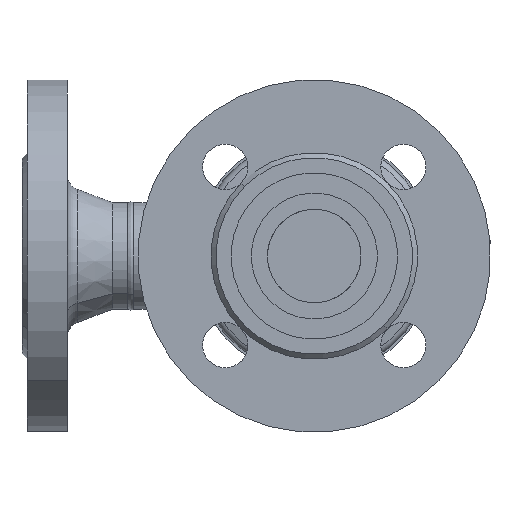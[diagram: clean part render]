
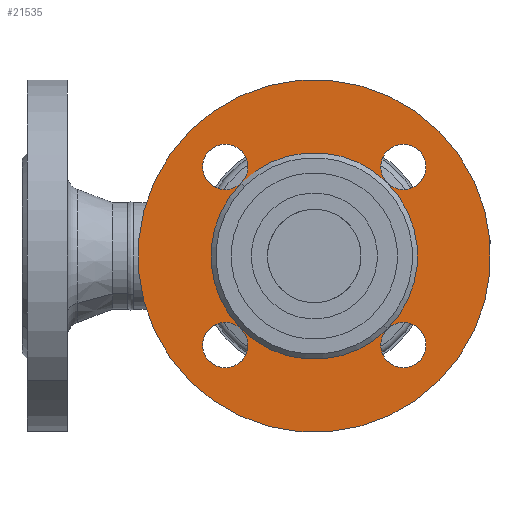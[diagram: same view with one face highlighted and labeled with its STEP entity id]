
A CAD part, front view. The second image highlights one B-rep face of the part: STEP entity #21535.
In plain terms, the highlighted planar face has unit normal (0, -1, 0).
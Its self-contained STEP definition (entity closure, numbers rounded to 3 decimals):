
#179 = CARTESIAN_POINT ( 'NONE',  ( 0., 2., -41. ) ) ;
#251 = EDGE_CURVE ( 'NONE', #22289, #477, #5646, .T. ) ;
#16678 = EDGE_CURVE ( 'NONE', #21967, #3812, #8738, .T. ) ;
#16777 = CIRCLE ( 'NONE', #16778, 70. ) ;
#16778 = AXIS2_PLACEMENT_3D ( 'NONE', #16798, #16799, #16800 ) ;
#16798 = CARTESIAN_POINT ( 'NONE',  ( 0., 2., 0. ) ) ;
#16799 = DIRECTION ( 'NONE',  ( 0., 1., 0. ) ) ;
#16800 = DIRECTION ( 'NONE',  ( -1., 0., 0. ) ) ;
#421 = ORIENTED_EDGE ( 'NONE', *, *, #1629, .T. ) ;
#443 = CIRCLE ( 'NONE', #444, 41. ) ;
#444 = AXIS2_PLACEMENT_3D ( 'NONE', #445, #446, #447 ) ;
#445 = CARTESIAN_POINT ( 'NONE',  ( 0., 2., 0. ) ) ;
#446 = DIRECTION ( 'NONE',  ( 0., 1., 0. ) ) ;
#447 = DIRECTION ( 'NONE',  ( -1., 0., 0. ) ) ;
#477 = VERTEX_POINT ( 'NONE', #6130 ) ;
#519 = CARTESIAN_POINT ( 'NONE',  ( 0., 2., 41. ) ) ;
#687 = VERTEX_POINT ( 'NONE', #6277 ) ;
#864 = CARTESIAN_POINT ( 'NONE',  ( 9., 2., 50. ) ) ;
#916 = EDGE_CURVE ( 'NONE', #687, #477, #6733, .T. ) ;
#934 = ORIENTED_EDGE ( 'NONE', *, *, #251, .T. ) ;
#17367 = ORIENTED_EDGE ( 'NONE', *, *, #16678, .T. ) ;
#17387 = CIRCLE ( 'NONE', #17388, 41. ) ;
#17388 = AXIS2_PLACEMENT_3D ( 'NONE', #17389, #17390, #17391 ) ;
#17389 = CARTESIAN_POINT ( 'NONE',  ( 0., 2., 0. ) ) ;
#17390 = DIRECTION ( 'NONE',  ( 0., 1., 0. ) ) ;
#17391 = DIRECTION ( 'NONE',  ( -1., 0., 0. ) ) ;
#1139 = ORIENTED_EDGE ( 'NONE', *, *, #916, .T. ) ;
#1352 = CIRCLE ( 'NONE', #1353, 9. ) ;
#1353 = AXIS2_PLACEMENT_3D ( 'NONE', #1354, #1355, #1356 ) ;
#1354 = CARTESIAN_POINT ( 'NONE',  ( 0., 2., 50. ) ) ;
#1355 = DIRECTION ( 'NONE',  ( 0., 1., 0. ) ) ;
#1356 = DIRECTION ( 'NONE',  ( -1., 0., 0. ) ) ;
#1424 = ORIENTED_EDGE ( 'NONE', *, *, #21814, .T. ) ;
#1629 = EDGE_CURVE ( 'NONE', #477, #687, #8258, .T. ) ;
#18340 = ORIENTED_EDGE ( 'NONE', *, *, #11829, .T. ) ;
#2449 = EDGE_CURVE ( 'NONE', #22289, #3349, #20599, .T. ) ;
#19311 = EDGE_LOOP ( 'NONE', ( #18340, #17367, #15706, #14742, #12881, #11897, #10921, #8944, #7974, #7008, #1424, #934, #421, #1139 ) ) ;
#3349 = VERTEX_POINT ( 'NONE', #24194 ) ;
#19762 = ORIENTED_EDGE ( 'NONE', *, *, #16299, .F. ) ;
#19950 = CIRCLE ( 'NONE', #19951, 9. ) ;
#19951 = AXIS2_PLACEMENT_3D ( 'NONE', #19952, #19953, #19954 ) ;
#19952 = CARTESIAN_POINT ( 'NONE',  ( 0., 2., -50. ) ) ;
#19953 = DIRECTION ( 'NONE',  ( 0., 1., 0. ) ) ;
#19954 = DIRECTION ( 'NONE',  ( -1., 0., 0. ) ) ;
#3591 = VERTEX_POINT ( 'NONE', #24478 ) ;
#3812 = VERTEX_POINT ( 'NONE', #24930 ) ;
#3909 = CIRCLE ( 'NONE', #3910, 9. ) ;
#3910 = AXIS2_PLACEMENT_3D ( 'NONE', #3911, #3912, #3913 ) ;
#3911 = CARTESIAN_POINT ( 'NONE',  ( -50., 2., 0. ) ) ;
#3912 = DIRECTION ( 'NONE',  ( 0., 1., 0. ) ) ;
#3913 = DIRECTION ( 'NONE',  ( -1., 0., 0. ) ) ;
#3927 = EDGE_CURVE ( 'NONE', #4593, #22289, #25073, .T. ) ;
#4035 = EDGE_CURVE ( 'NONE', #3812, #3591, #25125, .T. ) ;
#20599 = CIRCLE ( 'NONE', #20600, 9. ) ;
#20600 = AXIS2_PLACEMENT_3D ( 'NONE', #20601, #20621, #20622 ) ;
#20601 = CARTESIAN_POINT ( 'NONE',  ( 0., 2., 50. ) ) ;
#20621 = DIRECTION ( 'NONE',  ( 0., 1., 0. ) ) ;
#20622 = DIRECTION ( 'NONE',  ( -1., 0., 0. ) ) ;
#20724 = ORIENTED_EDGE ( 'NONE', *, *, #11303, .F. ) ;
#4427 = CIRCLE ( 'NONE', #4428, 9. ) ;
#4428 = AXIS2_PLACEMENT_3D ( 'NONE', #4429, #4430, #4431 ) ;
#4429 = CARTESIAN_POINT ( 'NONE',  ( -50., 2., 0. ) ) ;
#4430 = DIRECTION ( 'NONE',  ( 0., 1., 0. ) ) ;
#4431 = DIRECTION ( 'NONE',  ( -1., 0., 0. ) ) ;
#4593 = VERTEX_POINT ( 'NONE', #25993 ) ;
#21535 = ADVANCED_FACE ( 'NONE', ( #26197, #26198 ), #26199, .F. ) ;
#21814 = EDGE_CURVE ( 'NONE', #22508, #22289, #26361, .T. ) ;
#21967 = VERTEX_POINT ( 'NONE', #179 ) ;
#5646 = CIRCLE ( 'NONE', #5647, 41. ) ;
#5647 = AXIS2_PLACEMENT_3D ( 'NONE', #5648, #5649, #5650 ) ;
#5648 = CARTESIAN_POINT ( 'NONE',  ( 0., 2., 0. ) ) ;
#5649 = DIRECTION ( 'NONE',  ( 0., 1., 0. ) ) ;
#5650 = DIRECTION ( 'NONE',  ( -1., 0., 0. ) ) ;
#22195 = EDGE_CURVE ( 'NONE', #21967, #4593, #443, .T. ) ;
#22289 = VERTEX_POINT ( 'NONE', #519 ) ;
#22508 = VERTEX_POINT ( 'NONE', #864 ) ;
#6130 = CARTESIAN_POINT ( 'NONE',  ( 41., 2., 0. ) ) ;
#6276 = CARTESIAN_POINT ( 'NONE',  ( -59., 2., 0. ) ) ;
#6277 = CARTESIAN_POINT ( 'NONE',  ( 59., 2., 0. ) ) ;
#6305 = EDGE_CURVE ( 'NONE', #3349, #22508, #1352, .T. ) ;
#6604 = CARTESIAN_POINT ( 'NONE',  ( 70., 2., 0. ) ) ;
#6733 = CIRCLE ( 'NONE', #6734, 9. ) ;
#6734 = AXIS2_PLACEMENT_3D ( 'NONE', #6735, #6736, #6737 ) ;
#6735 = CARTESIAN_POINT ( 'NONE',  ( 50., 2., 0. ) ) ;
#6736 = DIRECTION ( 'NONE',  ( 0., 1., 0. ) ) ;
#6737 = DIRECTION ( 'NONE',  ( -1., 0., 0. ) ) ;
#7008 = ORIENTED_EDGE ( 'NONE', *, *, #6305, .T. ) ;
#24194 = CARTESIAN_POINT ( 'NONE',  ( -9., 2., 50. ) ) ;
#7974 = ORIENTED_EDGE ( 'NONE', *, *, #2449, .T. ) ;
#24398 = EDGE_CURVE ( 'NONE', #4593, #14475, #3909, .T. ) ;
#24478 = CARTESIAN_POINT ( 'NONE',  ( -9., 2., -50. ) ) ;
#8258 = CIRCLE ( 'NONE', #8259, 9. ) ;
#8259 = AXIS2_PLACEMENT_3D ( 'NONE', #8260, #8261, #8262 ) ;
#8260 = CARTESIAN_POINT ( 'NONE',  ( 50., 2., 0. ) ) ;
#8261 = DIRECTION ( 'NONE',  ( 0., 1., 0. ) ) ;
#8262 = DIRECTION ( 'NONE',  ( -1., 0., 0. ) ) ;
#8429 = CIRCLE ( 'NONE', #8430, 70. ) ;
#8430 = AXIS2_PLACEMENT_3D ( 'NONE', #8431, #8432, #8433 ) ;
#8431 = CARTESIAN_POINT ( 'NONE',  ( 0., 2., 0. ) ) ;
#8432 = DIRECTION ( 'NONE',  ( 0., 1., 0. ) ) ;
#8433 = DIRECTION ( 'NONE',  ( -1., 0., 0. ) ) ;
#24930 = CARTESIAN_POINT ( 'NONE',  ( 9., 2., -50. ) ) ;
#25073 = CIRCLE ( 'NONE', #25074, 41. ) ;
#25074 = AXIS2_PLACEMENT_3D ( 'NONE', #25075, #25076, #25077 ) ;
#25075 = CARTESIAN_POINT ( 'NONE',  ( 0., 2., 0. ) ) ;
#25076 = DIRECTION ( 'NONE',  ( 0., 1., 0. ) ) ;
#25077 = DIRECTION ( 'NONE',  ( -1., 0., 0. ) ) ;
#8738 = CIRCLE ( 'NONE', #8739, 9. ) ;
#8739 = AXIS2_PLACEMENT_3D ( 'NONE', #8740, #8741, #8742 ) ;
#8740 = CARTESIAN_POINT ( 'NONE',  ( 0., 2., -50. ) ) ;
#8741 = DIRECTION ( 'NONE',  ( 0., 1., 0. ) ) ;
#8742 = DIRECTION ( 'NONE',  ( -1., 0., 0. ) ) ;
#25125 = CIRCLE ( 'NONE', #25126, 9. ) ;
#25126 = AXIS2_PLACEMENT_3D ( 'NONE', #25127, #25128, #25131 ) ;
#25127 = CARTESIAN_POINT ( 'NONE',  ( 0., 2., -50. ) ) ;
#25128 = DIRECTION ( 'NONE',  ( 0., 1., 0. ) ) ;
#25131 = DIRECTION ( 'NONE',  ( -1., 0., 0. ) ) ;
#8944 = ORIENTED_EDGE ( 'NONE', *, *, #3927, .T. ) ;
#25993 = CARTESIAN_POINT ( 'NONE',  ( -41., 2., 0. ) ) ;
#26197 = FACE_OUTER_BOUND ( 'NONE', #13396, .T. ) ;
#26198 = FACE_BOUND ( 'NONE', #19311, .T. ) ;
#26199 = PLANE ( 'NONE',  #26200 ) ;
#26200 = AXIS2_PLACEMENT_3D ( 'NONE', #26201, #26202, #26203 ) ;
#26201 = CARTESIAN_POINT ( 'NONE',  ( 41., 2., 0. ) ) ;
#26202 = DIRECTION ( 'NONE',  ( 0., 1., 0. ) ) ;
#26203 = DIRECTION ( 'NONE',  ( -1., 0., 0. ) ) ;
#26361 = CIRCLE ( 'NONE', #26362, 9. ) ;
#26362 = AXIS2_PLACEMENT_3D ( 'NONE', #26363, #26364, #26365 ) ;
#26363 = CARTESIAN_POINT ( 'NONE',  ( 0., 2., 50. ) ) ;
#26364 = DIRECTION ( 'NONE',  ( 0., 1., 0. ) ) ;
#26365 = DIRECTION ( 'NONE',  ( -1., 0., 0. ) ) ;
#10220 = EDGE_CURVE ( 'NONE', #14475, #4593, #4427, .T. ) ;
#10635 = VERTEX_POINT ( 'NONE', #6604 ) ;
#10885 = VERTEX_POINT ( 'NONE', #16044 ) ;
#10921 = ORIENTED_EDGE ( 'NONE', *, *, #10220, .T. ) ;
#11303 = EDGE_CURVE ( 'NONE', #10885, #10635, #16777, .T. ) ;
#11829 = EDGE_CURVE ( 'NONE', #477, #21967, #17387, .T. ) ;
#11897 = ORIENTED_EDGE ( 'NONE', *, *, #24398, .T. ) ;
#12881 = ORIENTED_EDGE ( 'NONE', *, *, #22195, .T. ) ;
#13396 = EDGE_LOOP ( 'NONE', ( #20724, #19762 ) ) ;
#14063 = EDGE_CURVE ( 'NONE', #3591, #21967, #19950, .T. ) ;
#14475 = VERTEX_POINT ( 'NONE', #6276 ) ;
#14742 = ORIENTED_EDGE ( 'NONE', *, *, #14063, .T. ) ;
#15706 = ORIENTED_EDGE ( 'NONE', *, *, #4035, .T. ) ;
#16044 = CARTESIAN_POINT ( 'NONE',  ( -70., 2., 0. ) ) ;
#16299 = EDGE_CURVE ( 'NONE', #10635, #10885, #8429, .T. ) ;
